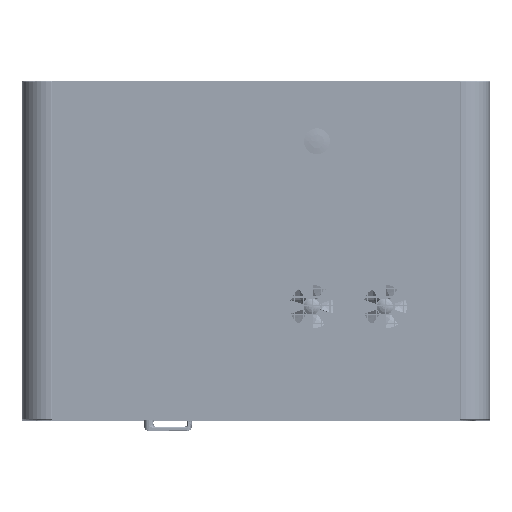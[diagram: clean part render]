
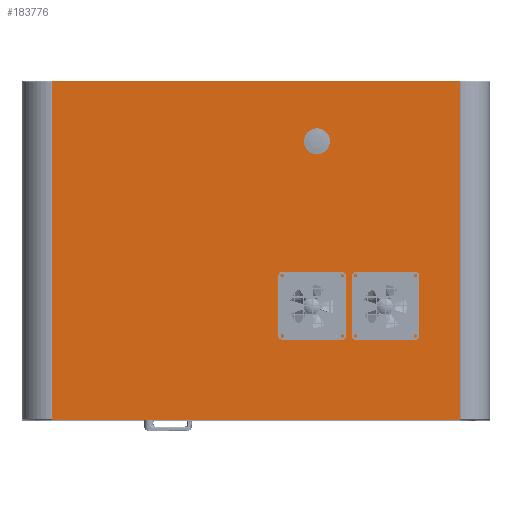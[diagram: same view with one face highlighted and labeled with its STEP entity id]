
A CAD part, top view. The second image highlights one B-rep face of the part: STEP entity #183776.
In plain terms, the highlighted planar face has unit normal (0, 0, 1).
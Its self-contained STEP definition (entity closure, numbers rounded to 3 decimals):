
#6823=FACE_BOUND('',#31312,.T.);
#6824=FACE_BOUND('',#31313,.T.);
#6825=FACE_BOUND('',#31314,.T.);
#10715=PLANE('',#201716);
#19558=FACE_OUTER_BOUND('',#31311,.T.);
#31311=EDGE_LOOP('',(#151099,#151100,#151101,#151102));
#31312=EDGE_LOOP('',(#151103,#151104,#151105,#151106,#151107,#151108,#151109,
#151110));
#31313=EDGE_LOOP('',(#151111));
#31314=EDGE_LOOP('',(#151112,#151113,#151114,#151115,#151116,#151117,#151118,
#151119));
#46971=LINE('',#309720,#63666);
#46972=LINE('',#309722,#63667);
#46973=LINE('',#309724,#63668);
#46974=LINE('',#309725,#63669);
#46975=LINE('',#309728,#63670);
#46976=LINE('',#309732,#63671);
#46977=LINE('',#309736,#63672);
#46978=LINE('',#309740,#63673);
#46979=LINE('',#309746,#63674);
#46980=LINE('',#309750,#63675);
#46981=LINE('',#309754,#63676);
#46982=LINE('',#309758,#63677);
#63666=VECTOR('',#238997,1000.);
#63667=VECTOR('',#238998,1000.);
#63668=VECTOR('',#238999,1000.);
#63669=VECTOR('',#239000,1000.);
#63670=VECTOR('',#239001,1000.);
#63671=VECTOR('',#239004,1000.);
#63672=VECTOR('',#239007,1000.);
#63673=VECTOR('',#239010,1000.);
#63674=VECTOR('',#239015,1000.);
#63675=VECTOR('',#239018,1000.);
#63676=VECTOR('',#239021,1000.);
#63677=VECTOR('',#239024,1000.);
#74608=CIRCLE('',#201717,5.);
#74609=CIRCLE('',#201718,5.);
#74610=CIRCLE('',#201719,5.);
#74611=CIRCLE('',#201720,5.);
#74612=CIRCLE('',#201721,31.75);
#74613=CIRCLE('',#201722,5.);
#74614=CIRCLE('',#201723,5.);
#74615=CIRCLE('',#201724,5.);
#74616=CIRCLE('',#201725,5.);
#87152=VERTEX_POINT('',#309718);
#87153=VERTEX_POINT('',#309719);
#87154=VERTEX_POINT('',#309721);
#87155=VERTEX_POINT('',#309723);
#87156=VERTEX_POINT('',#309726);
#87157=VERTEX_POINT('',#309727);
#87158=VERTEX_POINT('',#309729);
#87159=VERTEX_POINT('',#309731);
#87160=VERTEX_POINT('',#309733);
#87161=VERTEX_POINT('',#309735);
#87162=VERTEX_POINT('',#309737);
#87163=VERTEX_POINT('',#309739);
#87164=VERTEX_POINT('',#309742);
#87165=VERTEX_POINT('',#309744);
#87166=VERTEX_POINT('',#309745);
#87167=VERTEX_POINT('',#309747);
#87168=VERTEX_POINT('',#309749);
#87169=VERTEX_POINT('',#309751);
#87170=VERTEX_POINT('',#309753);
#87171=VERTEX_POINT('',#309755);
#87172=VERTEX_POINT('',#309757);
#109636=EDGE_CURVE('',#87152,#87153,#46971,.T.);
#109637=EDGE_CURVE('',#87154,#87152,#46972,.T.);
#109638=EDGE_CURVE('',#87155,#87154,#46973,.T.);
#109639=EDGE_CURVE('',#87153,#87155,#46974,.T.);
#109640=EDGE_CURVE('',#87156,#87157,#46975,.T.);
#109641=EDGE_CURVE('',#87156,#87158,#74608,.T.);
#109642=EDGE_CURVE('',#87159,#87158,#46976,.T.);
#109643=EDGE_CURVE('',#87159,#87160,#74609,.T.);
#109644=EDGE_CURVE('',#87161,#87160,#46977,.T.);
#109645=EDGE_CURVE('',#87161,#87162,#74610,.T.);
#109646=EDGE_CURVE('',#87163,#87162,#46978,.T.);
#109647=EDGE_CURVE('',#87163,#87157,#74611,.T.);
#109648=EDGE_CURVE('',#87164,#87164,#74612,.T.);
#109649=EDGE_CURVE('',#87165,#87166,#46979,.T.);
#109650=EDGE_CURVE('',#87165,#87167,#74613,.T.);
#109651=EDGE_CURVE('',#87168,#87167,#46980,.T.);
#109652=EDGE_CURVE('',#87168,#87169,#74614,.T.);
#109653=EDGE_CURVE('',#87170,#87169,#46981,.T.);
#109654=EDGE_CURVE('',#87170,#87171,#74615,.T.);
#109655=EDGE_CURVE('',#87172,#87171,#46982,.T.);
#109656=EDGE_CURVE('',#87172,#87166,#74616,.T.);
#151099=ORIENTED_EDGE('',*,*,#109636,.F.);
#151100=ORIENTED_EDGE('',*,*,#109637,.F.);
#151101=ORIENTED_EDGE('',*,*,#109638,.F.);
#151102=ORIENTED_EDGE('',*,*,#109639,.F.);
#151103=ORIENTED_EDGE('',*,*,#109640,.F.);
#151104=ORIENTED_EDGE('',*,*,#109641,.T.);
#151105=ORIENTED_EDGE('',*,*,#109642,.F.);
#151106=ORIENTED_EDGE('',*,*,#109643,.T.);
#151107=ORIENTED_EDGE('',*,*,#109644,.F.);
#151108=ORIENTED_EDGE('',*,*,#109645,.T.);
#151109=ORIENTED_EDGE('',*,*,#109646,.F.);
#151110=ORIENTED_EDGE('',*,*,#109647,.T.);
#151111=ORIENTED_EDGE('',*,*,#109648,.F.);
#151112=ORIENTED_EDGE('',*,*,#109649,.F.);
#151113=ORIENTED_EDGE('',*,*,#109650,.T.);
#151114=ORIENTED_EDGE('',*,*,#109651,.F.);
#151115=ORIENTED_EDGE('',*,*,#109652,.T.);
#151116=ORIENTED_EDGE('',*,*,#109653,.F.);
#151117=ORIENTED_EDGE('',*,*,#109654,.T.);
#151118=ORIENTED_EDGE('',*,*,#109655,.F.);
#151119=ORIENTED_EDGE('',*,*,#109656,.T.);
#183776=ADVANCED_FACE('',(#19558,#6823,#6824,#6825),#10715,.F.);
#201716=AXIS2_PLACEMENT_3D('',#309717,#238995,#238996);
#201717=AXIS2_PLACEMENT_3D('',#309730,#239002,#239003);
#201718=AXIS2_PLACEMENT_3D('',#309734,#239005,#239006);
#201719=AXIS2_PLACEMENT_3D('',#309738,#239008,#239009);
#201720=AXIS2_PLACEMENT_3D('',#309741,#239011,#239012);
#201721=AXIS2_PLACEMENT_3D('',#309743,#239013,#239014);
#201722=AXIS2_PLACEMENT_3D('',#309748,#239016,#239017);
#201723=AXIS2_PLACEMENT_3D('',#309752,#239019,#239020);
#201724=AXIS2_PLACEMENT_3D('',#309756,#239022,#239023);
#201725=AXIS2_PLACEMENT_3D('',#309759,#239025,#239026);
#238995=DIRECTION('center_axis',(0.,0.,
-1.));
#238996=DIRECTION('ref_axis',(0.,1.,0.));
#238997=DIRECTION('',(0.,1.,0.));
#238998=DIRECTION('',(-1.,0.,0.));
#238999=DIRECTION('',(0.,-1.,0.));
#239000=DIRECTION('',(1.,0.,0.));
#239001=DIRECTION('',(0.,-1.,0.));
#239002=DIRECTION('center_axis',(0.,0.,
-1.));
#239003=DIRECTION('ref_axis',(0.,1.,0.));
#239004=DIRECTION('',(-1.,0.,0.));
#239005=DIRECTION('center_axis',(0.,0.,
-1.));
#239006=DIRECTION('ref_axis',(0.,1.,0.));
#239007=DIRECTION('',(0.,1.,0.));
#239008=DIRECTION('center_axis',(0.,0.,
-1.));
#239009=DIRECTION('ref_axis',(0.,1.,0.));
#239010=DIRECTION('',(1.,0.,0.));
#239011=DIRECTION('center_axis',(0.,0.,
-1.));
#239012=DIRECTION('ref_axis',(0.,1.,0.));
#239013=DIRECTION('center_axis',(0.,0.,
1.));
#239014=DIRECTION('ref_axis',(0.,1.,0.));
#239015=DIRECTION('',(0.,-1.,0.));
#239016=DIRECTION('center_axis',(0.,0.,
-1.));
#239017=DIRECTION('ref_axis',(0.,1.,0.));
#239018=DIRECTION('',(-1.,0.,0.));
#239019=DIRECTION('center_axis',(0.,0.,
-1.));
#239020=DIRECTION('ref_axis',(0.,1.,0.));
#239021=DIRECTION('',(0.,1.,0.));
#239022=DIRECTION('center_axis',(0.,0.,
-1.));
#239023=DIRECTION('ref_axis',(0.,1.,0.));
#239024=DIRECTION('',(1.,0.,0.));
#239025=DIRECTION('center_axis',(0.,0.,
-1.));
#239026=DIRECTION('ref_axis',(0.,1.,0.));
#309717=CARTESIAN_POINT('Origin',(-541.998,461.049,2207.999));
#309718=CARTESIAN_POINT('',(-541.998,-438.951,2207.999));
#309719=CARTESIAN_POINT('',(-541.998,461.049,2207.999));
#309720=CARTESIAN_POINT('',(-541.998,-438.951,2207.999));
#309721=CARTESIAN_POINT('',(542.002,-438.951,2207.999));
#309722=CARTESIAN_POINT('',(542.002,-438.951,2207.999));
#309723=CARTESIAN_POINT('',(542.002,461.049,2207.999));
#309724=CARTESIAN_POINT('',(542.002,461.049,2207.999));
#309725=CARTESIAN_POINT('',(-541.998,461.049,2207.999));
#309726=CARTESIAN_POINT('',(77.002,-68.951,2207.999));
#309727=CARTESIAN_POINT('',(77.002,-203.951,2207.999));
#309728=CARTESIAN_POINT('',(77.002,461.049,2207.999));
#309729=CARTESIAN_POINT('',(82.002,-63.951,2207.999));
#309730=CARTESIAN_POINT('Origin',(82.002,-68.951,2207.999));
#309731=CARTESIAN_POINT('',(217.002,-63.951,2207.999));
#309732=CARTESIAN_POINT('',(-541.998,-63.951,2207.999));
#309733=CARTESIAN_POINT('',(222.002,-68.951,2207.999));
#309734=CARTESIAN_POINT('Origin',(217.002,-68.951,2207.999));
#309735=CARTESIAN_POINT('',(222.002,-203.951,2207.999));
#309736=CARTESIAN_POINT('',(222.002,461.049,2207.999));
#309737=CARTESIAN_POINT('',(217.002,-208.951,2207.999));
#309738=CARTESIAN_POINT('Origin',(217.002,-203.951,2207.999));
#309739=CARTESIAN_POINT('',(82.002,-208.951,2207.999));
#309740=CARTESIAN_POINT('',(-541.998,-208.951,2207.999));
#309741=CARTESIAN_POINT('Origin',(82.002,-203.951,2207.999));
#309742=CARTESIAN_POINT('',(162.002,269.299,2207.999));
#309743=CARTESIAN_POINT('Origin',(162.002,301.049,2207.999));
#309744=CARTESIAN_POINT('',(272.002,-68.951,2207.999));
#309745=CARTESIAN_POINT('',(272.002,-203.951,2207.999));
#309746=CARTESIAN_POINT('',(272.002,461.049,2207.999));
#309747=CARTESIAN_POINT('',(277.002,-63.951,2207.999));
#309748=CARTESIAN_POINT('Origin',(277.002,-68.951,2207.999));
#309749=CARTESIAN_POINT('',(412.002,-63.951,2207.999));
#309750=CARTESIAN_POINT('',(-541.998,-63.951,2207.999));
#309751=CARTESIAN_POINT('',(417.002,-68.951,2207.999));
#309752=CARTESIAN_POINT('Origin',(412.002,-68.951,2207.999));
#309753=CARTESIAN_POINT('',(417.002,-203.951,2207.999));
#309754=CARTESIAN_POINT('',(417.002,461.049,2207.999));
#309755=CARTESIAN_POINT('',(412.002,-208.951,2207.999));
#309756=CARTESIAN_POINT('Origin',(412.002,-203.951,2207.999));
#309757=CARTESIAN_POINT('',(277.002,-208.951,2207.999));
#309758=CARTESIAN_POINT('',(-541.998,-208.951,2207.999));
#309759=CARTESIAN_POINT('Origin',(277.002,-203.951,2207.999));
